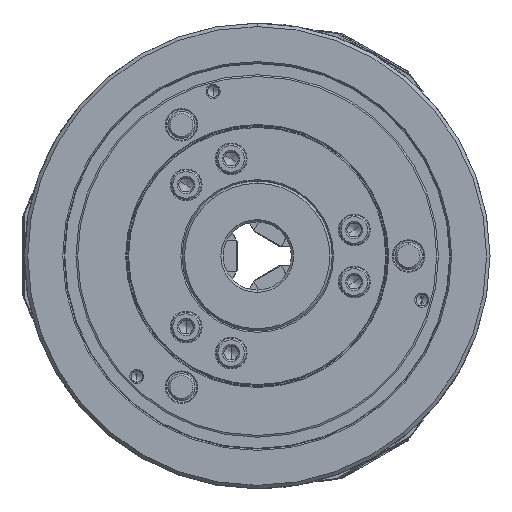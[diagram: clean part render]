
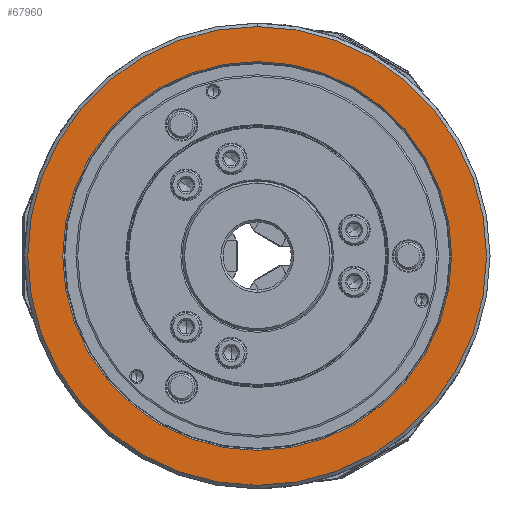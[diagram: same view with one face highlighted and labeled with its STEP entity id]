
A CAD part, left-side view. The second image highlights one B-rep face of the part: STEP entity #67960.
In plain terms, the highlighted planar face has unit normal (-1, 0, 0).
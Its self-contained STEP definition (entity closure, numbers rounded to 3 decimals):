
#859 = DIRECTION ( 'NONE',  ( 0., 0., -1. ) ) ;
#5684 = DIRECTION ( 'NONE',  ( 1., 0., 0. ) ) ;
#7605 = EDGE_CURVE ( 'NONE', #68088, #33068, #15502, .T. ) ;
#7729 = DIRECTION ( 'NONE',  ( -1., 0., 0. ) ) ;
#9915 = EDGE_CURVE ( 'NONE', #17749, #82176, #66434, .T. ) ;
#10159 = ORIENTED_EDGE ( 'NONE', *, *, #9915, .F. ) ;
#10928 = AXIS2_PLACEMENT_3D ( 'NONE', #63789, #5684, #55826 ) ;
#14114 = DIRECTION ( 'NONE',  ( 1., 0., 0. ) ) ;
#15182 = CARTESIAN_POINT ( 'NONE',  ( -91., 0., 85.6 ) ) ;
#15502 = CIRCLE ( 'NONE', #46956, 85.6 ) ;
#17106 = FACE_OUTER_BOUND ( 'NONE', #92091, .T. ) ;
#17749 = VERTEX_POINT ( 'NONE', #45911 ) ;
#22914 = DIRECTION ( 'NONE',  ( 1., 0., 0. ) ) ;
#27612 = EDGE_CURVE ( 'NONE', #82176, #17749, #75286, .T. ) ;
#29516 = AXIS2_PLACEMENT_3D ( 'NONE', #58821, #7729, #64917 ) ;
#33068 = VERTEX_POINT ( 'NONE', #15182 ) ;
#40056 = EDGE_LOOP ( 'NONE', ( #57343, #59711 ) ) ;
#40499 = CARTESIAN_POINT ( 'NONE',  ( -91., 0., -85.6 ) ) ;
#42714 = DIRECTION ( 'NONE',  ( 0., 0., -1. ) ) ;
#45911 = CARTESIAN_POINT ( 'NONE',  ( -91., 0., -101. ) ) ;
#46956 = AXIS2_PLACEMENT_3D ( 'NONE', #72104, #51010, #859 ) ;
#48347 = DIRECTION ( 'NONE',  ( 0., 0., -1. ) ) ;
#51010 = DIRECTION ( 'NONE',  ( 1., 0., 0. ) ) ;
#55826 = DIRECTION ( 'NONE',  ( 0., 0., -1. ) ) ;
#56298 = CARTESIAN_POINT ( 'NONE',  ( -91., 0., 0. ) ) ;
#56565 = ORIENTED_EDGE ( 'NONE', *, *, #27612, .F. ) ;
#57343 = ORIENTED_EDGE ( 'NONE', *, *, #86802, .T. ) ;
#58821 = CARTESIAN_POINT ( 'NONE',  ( -91., 101., 0. ) ) ;
#59711 = ORIENTED_EDGE ( 'NONE', *, *, #7605, .T. ) ;
#61004 = CIRCLE ( 'NONE', #90930, 85.6 ) ;
#63789 = CARTESIAN_POINT ( 'NONE',  ( -91., 0., 0. ) ) ;
#64917 = DIRECTION ( 'NONE',  ( 0., 0., 1. ) ) ;
#65383 = PLANE ( 'NONE',  #29516 ) ;
#66434 = CIRCLE ( 'NONE', #78385, 101. ) ;
#67960 = ADVANCED_FACE ( 'NONE', ( #86483, #17106 ), #65383, .T. ) ;
#68088 = VERTEX_POINT ( 'NONE', #40499 ) ;
#69931 = CARTESIAN_POINT ( 'NONE',  ( -91., 0., 0. ) ) ;
#72104 = CARTESIAN_POINT ( 'NONE',  ( -91., 0., 0. ) ) ;
#75286 = CIRCLE ( 'NONE', #10928, 101. ) ;
#78385 = AXIS2_PLACEMENT_3D ( 'NONE', #69931, #22914, #42714 ) ;
#82176 = VERTEX_POINT ( 'NONE', #83145 ) ;
#83145 = CARTESIAN_POINT ( 'NONE',  ( -91., 0., 101. ) ) ;
#86483 = FACE_BOUND ( 'NONE', #40056, .T. ) ;
#86802 = EDGE_CURVE ( 'NONE', #33068, #68088, #61004, .T. ) ;
#90930 = AXIS2_PLACEMENT_3D ( 'NONE', #56298, #14114, #48347 ) ;
#92091 = EDGE_LOOP ( 'NONE', ( #10159, #56565 ) ) ;
